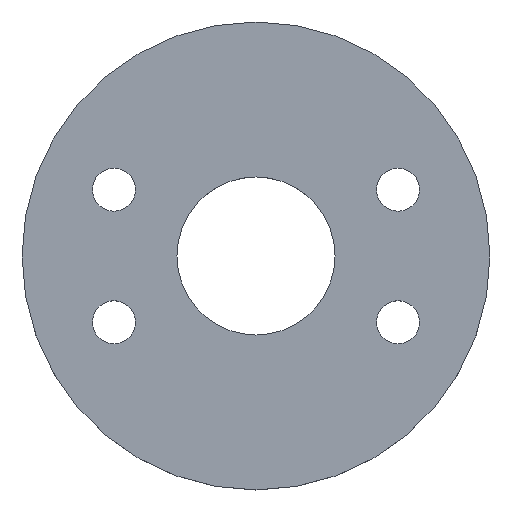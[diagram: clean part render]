
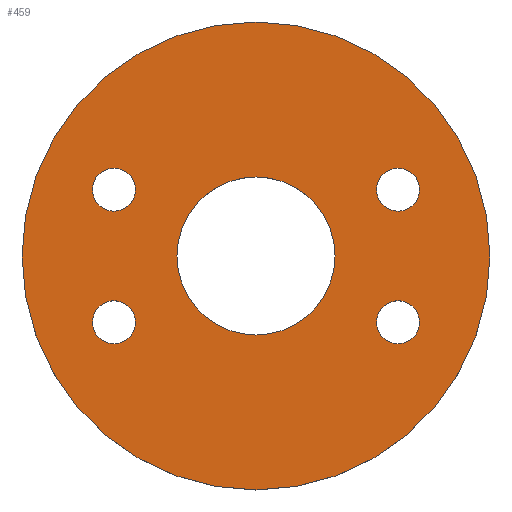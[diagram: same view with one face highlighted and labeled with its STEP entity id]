
A CAD part, top view. The second image highlights one B-rep face of the part: STEP entity #459.
In plain terms, the highlighted planar face has unit normal (0, 0, 1).
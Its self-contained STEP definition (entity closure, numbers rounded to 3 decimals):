
#8 = EDGE_CURVE ( 'NONE', #19, #298, #473, .T. ) ;
#9 = DIRECTION ( 'NONE',  ( 0., 0., 1. ) ) ;
#19 = VERTEX_POINT ( 'NONE', #230 ) ;
#23 = ORIENTED_EDGE ( 'NONE', *, *, #415, .F. ) ;
#27 = EDGE_CURVE ( 'NONE', #266, #536, #104, .T. ) ;
#28 = DIRECTION ( 'NONE',  ( 0., 0., 1. ) ) ;
#32 = CARTESIAN_POINT ( 'NONE',  ( 0., 0., 27.5 ) ) ;
#39 = CARTESIAN_POINT ( 'NONE',  ( 258.764, 104.809, 27.5 ) ) ;
#51 = VERTEX_POINT ( 'NONE', #338 ) ;
#61 = ORIENTED_EDGE ( 'NONE', *, *, #27, .F. ) ;
#64 = FACE_BOUND ( 'NONE', #76, .T. ) ;
#75 = CARTESIAN_POINT ( 'NONE',  ( 224.764, -104.809, 27.5 ) ) ;
#76 = EDGE_LOOP ( 'NONE', ( #463, #167 ) ) ;
#90 = DIRECTION ( 'NONE',  ( 0., 0., 1. ) ) ;
#93 = EDGE_CURVE ( 'NONE', #345, #444, #451, .T. ) ;
#99 = EDGE_LOOP ( 'NONE', ( #246, #359 ) ) ;
#100 = EDGE_LOOP ( 'NONE', ( #23, #252 ) ) ;
#103 = AXIS2_PLACEMENT_3D ( 'NONE', #313, #142, #460 ) ;
#104 = CIRCLE ( 'NONE', #242, 34. ) ;
#110 = DIRECTION ( 'NONE',  ( 0., 0., 1. ) ) ;
#115 = DIRECTION ( 'NONE',  ( 1., 0., 0. ) ) ;
#121 = EDGE_CURVE ( 'NONE', #536, #266, #457, .T. ) ;
#128 = AXIS2_PLACEMENT_3D ( 'NONE', #32, #435, #467 ) ;
#129 = EDGE_CURVE ( 'NONE', #298, #19, #219, .T. ) ;
#132 = VERTEX_POINT ( 'NONE', #396 ) ;
#135 = DIRECTION ( 'NONE',  ( 0., 0., 1. ) ) ;
#142 = DIRECTION ( 'NONE',  ( 0., 0., 1. ) ) ;
#156 = DIRECTION ( 'NONE',  ( 0., 0., 1. ) ) ;
#158 = CARTESIAN_POINT ( 'NONE',  ( 224.764, -104.809, 27.5 ) ) ;
#162 = CARTESIAN_POINT ( 'NONE',  ( -190.764, 104.809, 27.5 ) ) ;
#167 = ORIENTED_EDGE ( 'NONE', *, *, #129, .F. ) ;
#168 = EDGE_CURVE ( 'NONE', #533, #132, #500, .T. ) ;
#169 = AXIS2_PLACEMENT_3D ( 'NONE', #447, #28, #279 ) ;
#177 = DIRECTION ( 'NONE',  ( 1., 0., 0. ) ) ;
#184 = DIRECTION ( 'NONE',  ( -1., 0., 0. ) ) ;
#190 = FACE_OUTER_BOUND ( 'NONE', #406, .T. ) ;
#191 = ORIENTED_EDGE ( 'NONE', *, *, #121, .F. ) ;
#193 = ORIENTED_EDGE ( 'NONE', *, *, #93, .F. ) ;
#208 = CARTESIAN_POINT ( 'NONE',  ( 0., 0., 27.5 ) ) ;
#216 = CIRCLE ( 'NONE', #493, 34. ) ;
#217 = VERTEX_POINT ( 'NONE', #527 ) ;
#219 = CIRCLE ( 'NONE', #342, 125. ) ;
#224 = EDGE_CURVE ( 'NONE', #444, #345, #285, .T. ) ;
#228 = VERTEX_POINT ( 'NONE', #476 ) ;
#230 = CARTESIAN_POINT ( 'NONE',  ( -125., 0., 27.5 ) ) ;
#234 = FACE_BOUND ( 'NONE', #248, .T. ) ;
#235 = EDGE_LOOP ( 'NONE', ( #61, #191 ) ) ;
#242 = AXIS2_PLACEMENT_3D ( 'NONE', #269, #9, #517 ) ;
#246 = ORIENTED_EDGE ( 'NONE', *, *, #438, .F. ) ;
#248 = EDGE_LOOP ( 'NONE', ( #193, #432 ) ) ;
#252 = ORIENTED_EDGE ( 'NONE', *, *, #377, .F. ) ;
#261 = DIRECTION ( 'NONE',  ( -1., 0., 0. ) ) ;
#265 = EDGE_CURVE ( 'NONE', #132, #533, #354, .T. ) ;
#266 = VERTEX_POINT ( 'NONE', #450 ) ;
#269 = CARTESIAN_POINT ( 'NONE',  ( -224.764, -104.809, 27.5 ) ) ;
#270 = AXIS2_PLACEMENT_3D ( 'NONE', #208, #110, #177 ) ;
#272 = CARTESIAN_POINT ( 'NONE',  ( 0., 0., 27.5 ) ) ;
#275 = PLANE ( 'NONE',  #128 ) ;
#279 = DIRECTION ( 'NONE',  ( -1., 0., 0. ) ) ;
#281 = DIRECTION ( 'NONE',  ( 0., 0., 1. ) ) ;
#285 = CIRCLE ( 'NONE', #169, 34. ) ;
#286 = CARTESIAN_POINT ( 'NONE',  ( 370., 0., 27.5 ) ) ;
#288 = AXIS2_PLACEMENT_3D ( 'NONE', #339, #156, #115 ) ;
#290 = CARTESIAN_POINT ( 'NONE',  ( -224.764, 104.809, 27.5 ) ) ;
#294 = DIRECTION ( 'NONE',  ( 0., 0., 1. ) ) ;
#298 = VERTEX_POINT ( 'NONE', #321 ) ;
#302 = FACE_BOUND ( 'NONE', #235, .T. ) ;
#312 = FACE_BOUND ( 'NONE', #100, .T. ) ;
#313 = CARTESIAN_POINT ( 'NONE',  ( 224.764, 104.809, 27.5 ) ) ;
#321 = CARTESIAN_POINT ( 'NONE',  ( 125., 0., 27.5 ) ) ;
#330 = DIRECTION ( 'NONE',  ( 0., 0., 1. ) ) ;
#334 = CIRCLE ( 'NONE', #409, 34. ) ;
#336 = DIRECTION ( 'NONE',  ( -1., 0., 0. ) ) ;
#338 = CARTESIAN_POINT ( 'NONE',  ( 190.764, -104.809, 27.5 ) ) ;
#339 = CARTESIAN_POINT ( 'NONE',  ( 0., 0., 27.5 ) ) ;
#342 = AXIS2_PLACEMENT_3D ( 'NONE', #272, #369, #357 ) ;
#343 = CARTESIAN_POINT ( 'NONE',  ( 0., 0., 27.5 ) ) ;
#345 = VERTEX_POINT ( 'NONE', #162 ) ;
#354 = CIRCLE ( 'NONE', #288, 370. ) ;
#357 = DIRECTION ( 'NONE',  ( 1., 0., 0. ) ) ;
#359 = ORIENTED_EDGE ( 'NONE', *, *, #466, .F. ) ;
#362 = AXIS2_PLACEMENT_3D ( 'NONE', #290, #281, #336 ) ;
#364 = CARTESIAN_POINT ( 'NONE',  ( -258.764, -104.809, 27.5 ) ) ;
#367 = CARTESIAN_POINT ( 'NONE',  ( -224.764, -104.809, 27.5 ) ) ;
#369 = DIRECTION ( 'NONE',  ( 0., 0., 1. ) ) ;
#377 = EDGE_CURVE ( 'NONE', #51, #217, #530, .T. ) ;
#378 = CARTESIAN_POINT ( 'NONE',  ( -258.764, 104.809, 27.5 ) ) ;
#386 = CIRCLE ( 'NONE', #103, 34. ) ;
#396 = CARTESIAN_POINT ( 'NONE',  ( -370., 0., 27.5 ) ) ;
#401 = DIRECTION ( 'NONE',  ( 1., 0., 0. ) ) ;
#405 = ORIENTED_EDGE ( 'NONE', *, *, #168, .T. ) ;
#406 = EDGE_LOOP ( 'NONE', ( #492, #405 ) ) ;
#409 = AXIS2_PLACEMENT_3D ( 'NONE', #543, #135, #401 ) ;
#415 = EDGE_CURVE ( 'NONE', #217, #51, #216, .T. ) ;
#417 = DIRECTION ( 'NONE',  ( 1., 0., 0. ) ) ;
#421 = DIRECTION ( 'NONE',  ( 1., 0., 0. ) ) ;
#422 = VERTEX_POINT ( 'NONE', #39 ) ;
#432 = ORIENTED_EDGE ( 'NONE', *, *, #224, .F. ) ;
#435 = DIRECTION ( 'NONE',  ( 0., 0., 1. ) ) ;
#438 = EDGE_CURVE ( 'NONE', #422, #228, #334, .T. ) ;
#444 = VERTEX_POINT ( 'NONE', #378 ) ;
#445 = AXIS2_PLACEMENT_3D ( 'NONE', #158, #330, #261 ) ;
#447 = CARTESIAN_POINT ( 'NONE',  ( -224.764, 104.809, 27.5 ) ) ;
#450 = CARTESIAN_POINT ( 'NONE',  ( -190.764, -104.809, 27.5 ) ) ;
#451 = CIRCLE ( 'NONE', #362, 34. ) ;
#457 = CIRCLE ( 'NONE', #482, 34. ) ;
#459 = ADVANCED_FACE ( 'NONE', ( #234, #302, #312, #507, #190, #64 ), #275, .T. ) ;
#460 = DIRECTION ( 'NONE',  ( 1., 0., 0. ) ) ;
#463 = ORIENTED_EDGE ( 'NONE', *, *, #8, .F. ) ;
#466 = EDGE_CURVE ( 'NONE', #228, #422, #386, .T. ) ;
#467 = DIRECTION ( 'NONE',  ( 1., 0., 0. ) ) ;
#473 = CIRCLE ( 'NONE', #270, 125. ) ;
#476 = CARTESIAN_POINT ( 'NONE',  ( 190.764, 104.809, 27.5 ) ) ;
#482 = AXIS2_PLACEMENT_3D ( 'NONE', #367, #497, #417 ) ;
#492 = ORIENTED_EDGE ( 'NONE', *, *, #265, .T. ) ;
#493 = AXIS2_PLACEMENT_3D ( 'NONE', #75, #90, #184 ) ;
#497 = DIRECTION ( 'NONE',  ( 0., 0., 1. ) ) ;
#500 = CIRCLE ( 'NONE', #528, 370. ) ;
#507 = FACE_BOUND ( 'NONE', #99, .T. ) ;
#517 = DIRECTION ( 'NONE',  ( 1., 0., 0. ) ) ;
#527 = CARTESIAN_POINT ( 'NONE',  ( 258.764, -104.809, 27.5 ) ) ;
#528 = AXIS2_PLACEMENT_3D ( 'NONE', #343, #294, #421 ) ;
#530 = CIRCLE ( 'NONE', #445, 34. ) ;
#533 = VERTEX_POINT ( 'NONE', #286 ) ;
#536 = VERTEX_POINT ( 'NONE', #364 ) ;
#543 = CARTESIAN_POINT ( 'NONE',  ( 224.764, 104.809, 27.5 ) ) ;
